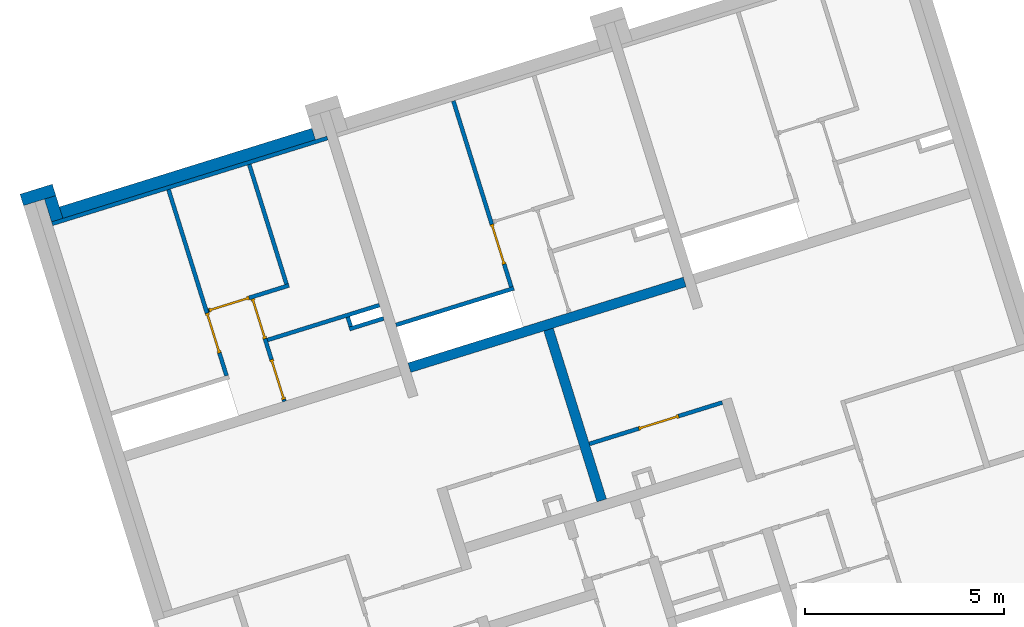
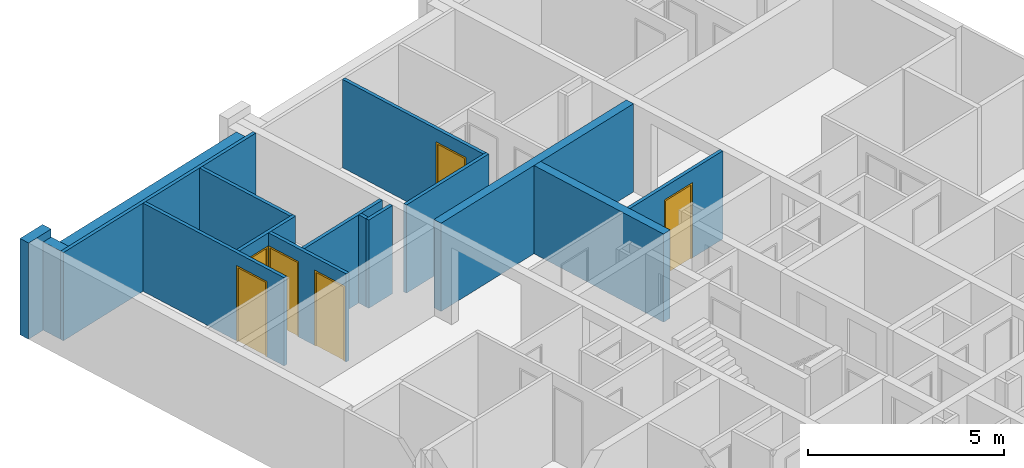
# One storey, part 6 of 12: 16 walls, 6 doors, 10 openings.
"""IFC4 building model written with IfcOpenShell, lengths in metres."""

import ifcopenshell
import ifcopenshell.guid

model = None  # the IFC model being written
_history = None  # IfcOwnerHistory: only IFC2X3 demands one
_inside = {}  # id of a spatial element -> (the spatial element, [elements in it])
_under = {}  # id of a project, library or spatial element -> (it, [spatial elements below it])
_declared = {}  # id of a project -> (the project, [libraries it declares])
_typed = {}  # id of a type object -> (the type object, [elements of that type])
_made_of = {}  # id of a material, layer set ... -> (it, [elements and type objects made of it])


def new_model(schema):
    """Start an empty IFC model of exactly this schema.

    Asked for "IFC4X3", IfcOpenShell would pick the latest addendum, in which some entities
    have other attributes; the version numbers below select the first issue.
    IFC2X3 requires an IfcOwnerHistory on every rooted entity: one is made here for all.
    """
    global model, _history
    if schema == "IFC4X3":
        model = ifcopenshell.file(schema_version=(4, 3, 0, 0))
    else:
        model = ifcopenshell.file(schema=schema)
    _inside.clear()
    _under.clear()
    _declared.clear()
    _typed.clear()
    _made_of.clear()
    _history = None
    if model.schema == "IFC2X3":
        org = make("IfcOrganization", Name="unknown")
        user = make(
            "IfcPersonAndOrganization",
            ThePerson=make("IfcPerson", FamilyName="unknown"),
            TheOrganization=org,
        )
        app = make(
            "IfcApplication",
            ApplicationDeveloper=org,
            Version="unknown",
            ApplicationFullName="unknown",
            ApplicationIdentifier="unknown",
        )
        _history = make(
            "IfcOwnerHistory",
            OwningUser=user,
            OwningApplication=app,
            ChangeAction="ADDED",
            CreationDate=0,
        )
    return model


def make(cls, **values):
    """One entity of the class cls with the attributes given. An attribute that is None is left unset."""
    return model.create_entity(
        cls, **{name: value for name, value in values.items() if value is not None}
    )


def entity(cls, *values):
    """Any entity or typed value of the class cls, its attributes in the order of the schema. None: left unset."""
    e = model.create_entity(cls)
    for i, value in enumerate(values):
        if value is not None:
            e[i] = value
    return e


def rooted(cls, **values):
    """An entity with a GlobalId (a new one), such as an element, a storey or a relation."""
    return make(cls, GlobalId=ifcopenshell.guid.new(), OwnerHistory=_history, **values)


def si_unit(unit_type, name, prefix=None):
    """IfcSIUnit, for example si_unit("LENGTHUNIT", "METRE", prefix="MILLI")."""
    return make("IfcSIUnit", UnitType=unit_type, Prefix=prefix, Name=name)


def converted_unit(unit_type, name, factor, base, dimensions=None, offset=None):
    """IfcConversionBasedUnit, such as the inch: factor (a typed value) times the base unit."""
    return make(
        "IfcConversionBasedUnit"
        if offset is None
        else "IfcConversionBasedUnitWithOffset",
        ConversionOffset=offset,
        Dimensions=None
        if dimensions is None
        else entity("IfcDimensionalExponents", *dimensions),
        UnitType=unit_type,
        Name=name,
        ConversionFactor=make(
            "IfcMeasureWithUnit", ValueComponent=factor, UnitComponent=base
        ),
    )


def assignment(units):
    """IfcUnitAssignment: the units of a project."""
    return None if units is None else make("IfcUnitAssignment", Units=units)


def point(xyz):
    """IfcCartesianPoint."""
    return None if xyz is None else make("IfcCartesianPoint", Coordinates=xyz)


def direction(xyz):
    """IfcDirection."""
    return None if xyz is None else make("IfcDirection", DirectionRatios=xyz)


def frame(location, z_axis=None, x_axis=None):
    """IfcAxis2Placement3D, a coordinate frame: its origin and axes. An axis left out is left unset."""
    return make(
        "IfcAxis2Placement3D",
        Location=point(location),
        Axis=direction(z_axis),
        RefDirection=direction(x_axis),
    )


def origin():
    """The frame at (0, 0, 0) with its axes left unset."""
    return frame((0.0, 0.0, 0.0))


def place(relative_to, where):
    """IfcLocalPlacement: puts the frame where relative to a parent placement (None: the world)."""
    return make(
        "IfcLocalPlacement", PlacementRelTo=relative_to, RelativePlacement=where
    )


def context(
    kind, dimensions, precision=None, world=None, true_north=None, identifier=None
):
    """IfcGeometricRepresentationContext, for example the 3D "Model" context."""
    return make(
        "IfcGeometricRepresentationContext",
        ContextIdentifier=identifier,
        ContextType=kind,
        CoordinateSpaceDimension=dimensions,
        Precision=precision,
        WorldCoordinateSystem=world,
        TrueNorth=true_north,
    )


def subcontext(parent, identifier, kind, view, scale=None):
    """IfcGeometricRepresentationSubContext, for example "Body" below "Model"."""
    return make(
        "IfcGeometricRepresentationSubContext",
        ContextIdentifier=identifier,
        ContextType=kind,
        ParentContext=parent,
        TargetScale=scale,
        TargetView=view,
    )


def project(units=None, contexts=None):
    """IfcProject with its units and contexts."""
    return rooted(
        "IfcProject",
        Name="project",
        RepresentationContexts=contexts,
        UnitsInContext=assignment(units),
    )


def spatial(cls, under=None, at=None, **own):
    """A site, building, storey or space (cls), placed at a placement, below another one or the project."""
    s = rooted(cls, ObjectPlacement=at, **own)
    if under is not None:
        _under.setdefault(under.id(), (under, []))[1].append(s)
    return s


def point_list(points):
    """IfcCartesianPointList2D or 3D."""
    cls = (
        "IfcCartesianPointList2D" if len(points[0]) == 2 else "IfcCartesianPointList3D"
    )
    return make(cls, CoordList=points)


def indexed_curve(points, segments=None, self_intersect=None):
    """IfcIndexedPolyCurve: lines and arcs through numbered points (the first is 1)."""
    return make(
        "IfcIndexedPolyCurve",
        Points=point_list(points),
        Segments=segments,
        SelfIntersect=self_intersect,
    )


def outline(outer, holes=None, kind="AREA"):
    """IfcArbitraryClosedProfileDef: a profile drawn as a closed curve; with holes, ...WithVoids."""
    if holes is None:
        return make("IfcArbitraryClosedProfileDef", ProfileType=kind, OuterCurve=outer)
    return make(
        "IfcArbitraryProfileDefWithVoids",
        ProfileType=kind,
        OuterCurve=outer,
        InnerCurves=holes,
    )


def extrude(swept, where, along, depth):
    """IfcExtrudedAreaSolid: the profile swept, set in the frame where, extruded along a direction by depth."""
    return make(
        "IfcExtrudedAreaSolid",
        SweptArea=swept,
        Position=where,
        ExtrudedDirection=direction(along),
        Depth=depth,
    )


def polygons(points, faces, closed=None, point_numbers=None):
    """IfcPolygonalFaceSet: a face is its outer loop, then its inner loops; points numbered from 1."""
    made = []
    for loops in faces:
        if len(loops) == 1:
            made.append(make("IfcIndexedPolygonalFace", CoordIndex=loops[0]))
        else:
            made.append(
                make(
                    "IfcIndexedPolygonalFaceWithVoids",
                    CoordIndex=loops[0],
                    InnerCoordIndices=loops[1:],
                )
            )
    return make(
        "IfcPolygonalFaceSet",
        Coordinates=point_list(points),
        Closed=closed,
        Faces=made,
        PnIndex=point_numbers,
    )


def shape(context_of_items, identifier, shape_type, items):
    """IfcShapeRepresentation: the items that make up one representation, for example the "Body"."""
    return make(
        "IfcShapeRepresentation",
        ContextOfItems=context_of_items,
        RepresentationIdentifier=identifier,
        RepresentationType=shape_type,
        Items=items,
    )


def source(mapping_origin, context_of_items, identifier, shape_type, items):
    """IfcRepresentationMap: a shape defined once, which mapped items show again and again."""
    return make(
        "IfcRepresentationMap",
        MappingOrigin=mapping_origin,
        MappedRepresentation=shape(context_of_items, identifier, shape_type, items),
    )


def transform(
    local_origin,
    x_axis=None,
    y_axis=None,
    z_axis=None,
    scale=None,
    scale2=None,
    scale3=None,
    uniform=True,
):
    """IfcCartesianTransformationOperator3D, or its non-uniform kind. x_axis, y_axis, z_axis: its Axis1, 2, 3."""
    if uniform:
        return make(
            "IfcCartesianTransformationOperator3D",
            Axis1=direction(x_axis),
            Axis2=direction(y_axis),
            LocalOrigin=point(local_origin),
            Scale=scale,
            Axis3=direction(z_axis),
        )
    return make(
        "IfcCartesianTransformationOperator3DnonUniform",
        Axis1=direction(x_axis),
        Axis2=direction(y_axis),
        LocalOrigin=point(local_origin),
        Scale=scale,
        Axis3=direction(z_axis),
        Scale2=scale2,
        Scale3=scale3,
    )


def mapped(mapping_source, mapping_target):
    """IfcMappedItem: shows the shape of a source again, moved by a transform."""
    return make(
        "IfcMappedItem", MappingSource=mapping_source, MappingTarget=mapping_target
    )


def material(Name=None, Category=None):
    """IfcMaterial."""
    return make("IfcMaterial", Name=Name, Category=Category)


def constituent(of_material, Name=None, Category=None, fraction=None):
    """IfcMaterialConstituent: one of the materials an element consists of."""
    return make(
        "IfcMaterialConstituent",
        Name=Name,
        Material=of_material,
        Fraction=fraction,
        Category=Category,
    )


def constituent_set(constituents=None, Name=None):
    """IfcMaterialConstituentSet."""
    return make(
        "IfcMaterialConstituentSet", Name=Name, MaterialConstituents=constituents
    )


def made_of(thing, what):
    """Note that an element or type object is made of a material, layer set ...; save() writes the relation."""
    if what is not None:
        _made_of.setdefault(what.id(), (what, []))[1].append(thing)
    return thing


def type_object(cls, material=None, **own):
    """A type object (cls), such as IfcWallType, which elements share."""
    return made_of(rooted(cls, **own), material)


def type_shapes(of_type, sources):
    """Give a type object the sources (RepresentationMaps) that its elements show as mapped items."""
    of_type.RepresentationMaps = sources


def element(
    cls,
    number,
    at=None,
    inside=None,
    cuts=None,
    type_object=None,
    material=None,
    context=None,
    identifier="Body",
    shape_type=None,
    held_by="IfcProductDefinitionShape",
    body=None,
    shapes=None,
    **own,
):
    """One element of the class cls, such as IfcWall. Its Tag is "e" and its number.

    at: its placement. inside: the storey or other place that contains it. cuts: it is an
    opening in that element (IfcRelVoidsElement). A single representation is given by context,
    identifier, shape_type and body (its items); several are given by shapes. held_by: the class
    of the entity that holds the representations. save() writes the other relations.
    """
    e = rooted(cls, Tag="e%d" % number, ObjectPlacement=at, **own)
    if body is not None:
        shapes = [shape(context, identifier, shape_type, body)]
    if shapes is not None:
        e.Representation = make(held_by, Representations=shapes)
    if inside is not None:
        _inside.setdefault(inside.id(), (inside, []))[1].append(e)
    if cuts is not None:
        rooted(
            "IfcRelVoidsElement", RelatingBuildingElement=cuts, RelatedOpeningElement=e
        )
    if type_object is not None:
        _typed.setdefault(type_object.id(), (type_object, []))[1].append(e)
    return made_of(e, material)


def fill(opening, filler):
    """IfcRelFillsElement: the door or window that sits in an opening."""
    return rooted(
        "IfcRelFillsElement",
        RelatingOpeningElement=opening,
        RelatedBuildingElement=filler,
    )


def aggregate(whole, parts):
    """IfcRelAggregates: a whole, such as a stair, and the parts it consists of."""
    return rooted("IfcRelAggregates", RelatingObject=whole, RelatedObjects=parts)


def save(model, path):
    """Write the relations noted so far, then the file.

    IfcRelAggregates (storeys below a building ...), IfcRelContainedInSpatialStructure (elements
    in a storey), IfcRelDefinesByType, IfcRelAssociatesMaterial and IfcRelDeclares: one each for
    every whole, place, type object, material and project.
    """
    for whole, parts in _under.values():
        aggregate(whole, parts)
    for where, things in _inside.values():
        rooted(
            "IfcRelContainedInSpatialStructure",
            RelatedElements=things,
            RelatingStructure=where,
        )
    for kind, things in _typed.values():
        rooted("IfcRelDefinesByType", RelatedObjects=things, RelatingType=kind)
    for what, things in _made_of.values():
        rooted("IfcRelAssociatesMaterial", RelatedObjects=things, RelatingMaterial=what)
    for by, libraries in _declared.values():
        rooted("IfcRelDeclares", RelatingContext=by, RelatedDefinitions=libraries)
    model.write(path)


model = new_model("IFC4")

# Units and contexts
model_context = context("Model", 3, precision=1e-05, world=origin(), true_north=direction((6.12323399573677e-17, 1.0)))
body_context = subcontext(model_context, "Body", "Model", "MODEL_VIEW")
ifc_project = project(units=[si_unit("LENGTHUNIT", "METRE"), si_unit("AREAUNIT", "SQUARE_METRE"), converted_unit("PLANEANGLEUNIT", "DEGREE", entity("IfcPlaneAngleMeasure", 0.0174532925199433), si_unit("PLANEANGLEUNIT", "RADIAN"), dimensions=[0, 0, 0, 0, 0, 0, 0]), si_unit("VOLUMEUNIT", "CUBIC_METRE")], contexts=[model_context])

# Site, building, storey
site_placement = place(None, frame((13.1347999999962, 11.9886000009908, 0.0), z_axis=(0.0, 0.0, 1.0), x_axis=(0.954770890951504, 0.297342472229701, 0.0)))
site = spatial("IfcSite", under=ifc_project, at=site_placement, Name="Schiehaven", CompositionType="ELEMENT")
building_placement = place(site_placement, origin())
building = spatial("IfcBuilding", under=site, at=building_placement, Name="VORM huis", CompositionType="ELEMENT")
storey_placement = place(building_placement, frame((0.0, 0.0, 3.9)))
storey = spatial("IfcBuildingStorey", under=building, at=storey_placement, Name="01 eerste verdieping", CompositionType="ELEMENT", Elevation=3.9)

# Walls
ifc_material_1 = material(Name="ntb_ntb_ntb", Category="Miscellaneous")
wall_type_1 = type_object("IfcWallType", Name="Basic Wall:21_WA_gevel_binnenspouwwand 100mm_gen", PredefinedType="STANDARD")
wall_1_placement = place(storey_placement, frame((57.6250000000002, 33.0749999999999, 0.0)))
element("IfcWall", 1, at=wall_1_placement, inside=storey, type_object=wall_type_1, material=ifc_material_1, Name="Binnenspouwblad", ObjectType="Wand", PredefinedType="NOTDEFINED", context=body_context, shape_type="SweptSolid", body=[
    extrude(outline(indexed_curve([(7.24999999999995, 0.0499999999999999), (-1.37255262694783e-16, 0.0500000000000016), (1.37255262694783e-16, -0.0500000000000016), (7.24999999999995, -0.0500000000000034), (7.24999999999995, 0.0499999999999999)], self_intersect=False)), origin(), (0.0, 0.0, 1.0), 2.75),
])
wall_type_2 = type_object("IfcWallType", Name="Basic Wall: 300mm_gen", PredefinedType="STANDARD")
wall_2_placement = place(storey_placement, frame((57.9250000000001, 33.8749999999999, 0.0), z_axis=(0.0, 0.0, 1.0), x_axis=(-1.0, 0.0, 0.0)))
element("IfcWall", 2, at=wall_2_placement, inside=storey, type_object=wall_type_2, material=ifc_material_1, Name="Gevelwand", ObjectType="Wand", PredefinedType="NOTDEFINED", context=body_context, shape_type="SweptSolid", body=[
    extrude(outline(indexed_curve([(0.849999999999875, 0.150000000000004), (-6.58211410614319e-16, 0.150000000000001), (6.58211410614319e-16, -0.150000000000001), (0.849999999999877, -0.149999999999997), (0.849999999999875, 0.150000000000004)], self_intersect=False)), origin(), (0.0, 0.0, 1.0), 3.0),
])
wall_3_placement = place(storey_placement, frame((57.7750000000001, 33.1249999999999, 0.0), z_axis=(0.0, 0.0, 1.0), x_axis=(0.0, 1.0, 0.0)))
element("IfcWall", 3, at=wall_3_placement, inside=storey, type_object=wall_type_2, material=ifc_material_1, Name="Gevelwand", ObjectType="Wand", PredefinedType="NOTDEFINED", context=body_context, shape_type="SweptSolid", body=[
    extrude(outline(indexed_curve([(0.600000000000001, 0.150000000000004), (-9.66298299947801e-16, 0.150000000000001), (9.66298299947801e-16, -0.150000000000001), (0.600000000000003, -0.149999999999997), (0.600000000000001, 0.150000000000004)], self_intersect=False)), origin(), (0.0, 0.0, 1.0), 2.75),
])
wall_4_placement = place(storey_placement, frame((64.5750000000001, 33.2749999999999, 0.0), z_axis=(0.0, 0.0, 1.0), x_axis=(-1.0, 0.0, 0.0)))
element("IfcWall", 4, at=wall_4_placement, inside=storey, type_object=wall_type_2, material=ifc_material_1, Name="Gevelwand", ObjectType="Wand", PredefinedType="NOTDEFINED", context=body_context, shape_type="SweptSolid", body=[
    extrude(outline(indexed_curve([(6.64999999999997, 0.150000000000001), (-4.90186530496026e-16, 0.150000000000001), (4.90186530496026e-16, -0.150000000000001), (6.64999999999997, -0.15), (6.64999999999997, 0.150000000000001)], self_intersect=False)), origin(), (0.0, 0.0, 1.0), 2.75),
])
wall_type_3 = type_object("IfcWallType", Name="Basic Wall:22_WA_afbouw_binnenwand 250mm_gen", PredefinedType="STANDARD")
wall_5_placement = place(storey_placement, frame((68.7500000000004, 22.325, 0.0), z_axis=(0.0, 0.0, 1.0), x_axis=(0.0, 1.0, 0.0)))
element("IfcWall", 5, at=wall_5_placement, inside=storey, type_object=wall_type_3, material=ifc_material_1, Name="Binnenwand", ObjectType="Wand", PredefinedType="NOTDEFINED", context=body_context, shape_type="SweptSolid", body=[
    extrude(outline(indexed_curve([(4.49999999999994, 0.124999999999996), (7.62151676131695e-16, 0.124999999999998), (-7.62151676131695e-16, -0.124999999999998), (4.49999999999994, -0.124999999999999), (4.49999999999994, 0.124999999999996)], self_intersect=False)), origin(), (0.0, 0.0, 1.0), 2.75),
])
wall_6_placement = place(storey_placement, frame((72.3750000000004, 26.95, 0.0), z_axis=(0.0, 0.0, 1.0), x_axis=(-1.0, 0.0, 0.0)))
element("IfcWall", 6, at=wall_6_placement, inside=storey, type_object=wall_type_3, material=ifc_material_1, Name="Binnenwand", ObjectType="Wand", PredefinedType="NOTDEFINED", context=body_context, shape_type="SweptSolid", body=[
    extrude(outline(indexed_curve([(7.24999999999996, 0.125000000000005), (6.85879083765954e-16, 0.125000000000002), (-6.85879083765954e-16, -0.125000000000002), (7.24999999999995, -0.124999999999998), (7.24999999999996, 0.125000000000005)], self_intersect=False)), origin(), (0.0, 0.0, 1.0), 2.75),
])
wall_type_4 = type_object("IfcWallType", Name="Basic Wall:22_WA_afbouw_binnenwand 100mm_gen", PredefinedType="STANDARD")
wall_7_placement = place(storey_placement, frame((68.2250000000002, 28.0749999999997, 0.0), z_axis=(0.0, 0.0, 1.0), x_axis=(-1.0, 0.0, 0.0)))
element("IfcWall", 7, at=wall_7_placement, inside=storey, type_object=wall_type_4, material=ifc_material_1, Name="Binnenwand", ObjectType="Wand", PredefinedType="NOTDEFINED", context=body_context, shape_type="SweptSolid", body=[
    extrude(outline(indexed_curve([(3.10000000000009, 0.0500000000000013), (-4.84095551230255e-16, 0.0500000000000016), (4.84095551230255e-16, -0.0500000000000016), (3.10000000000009, -0.0500000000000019), (3.10000000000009, 0.0500000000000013)], self_intersect=False)), origin(), (0.0, 0.0, 1.0), 2.75),
])

# Wall, openings, door
wall_8_placement = place(storey_placement, frame((68.1750000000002, 33.0249999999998, 0.0), z_axis=(0.0, 0.0, 1.0), x_axis=(0.0, -1.0, 0.0)))
wall_8 = element("IfcWall", 8, at=wall_8_placement, inside=storey, type_object=wall_type_4, material=ifc_material_1, Name="Binnenwand", ObjectType="Wand", PredefinedType="NOTDEFINED", context=body_context, shape_type="Tessellation", body=[
    polygons([(4.90000000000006, -0.0499999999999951, 2.75), (0.0, -0.0500000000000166, 2.75), (0.0, -0.0500000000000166, 0.0), (3.25000000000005, -0.0500000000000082, 0.0), (3.25000000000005, -0.0500000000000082, 2.34999999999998), (4.30000000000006, -0.0499999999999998, 2.34999999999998), (4.30000000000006, -0.0499999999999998, 0.0), (4.90000000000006, -0.0499999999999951, 0.0), (0.0, 0.0499999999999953, 2.75), (3.15000000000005, 0.0499999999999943, 2.75), (3.25000000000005, 0.0499999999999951, 2.75), (4.90000000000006, 0.0499999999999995, 2.75), (4.90000000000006, 0.0499999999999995, 0.0), (4.30000000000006, 0.0499999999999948, 0.0), (4.30000000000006, 0.0499999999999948, 2.34999999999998), (3.25000000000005, 0.0499999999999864, 2.34999999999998), (3.25000000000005, 0.0499999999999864, 0.0), (3.15000000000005, 0.0499999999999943, 5.41433564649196e-16), (0.0, 0.0499999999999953, 0.0)], [[[1, 2, 3, 4, 5, 6, 7, 8]], [[9, 10, 11, 12, 13, 14, 15, 16, 17, 18, 19]], [[3, 19, 18, 17, 4]], [[2, 1, 12, 11, 10, 9]], [[3, 2, 9, 19]], [[1, 8, 13, 12]], [[6, 15, 14, 7]], [[16, 5, 4, 17]], [[15, 6, 5, 16]], [[13, 8, 7, 14]]], closed=True),
])
opening_1_placement = place(wall_8_placement, frame((3.25000000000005, -0.0500000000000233, 0.0)))
opening_1 = element("IfcOpeningElement", 9, at=opening_1_placement, cuts=wall_8, Name="Binnendeur", PredefinedType="OPENING", context=body_context, shape_type="SweptSolid", body=[
    extrude(outline(indexed_curve([(2.34999999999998, 1.05), (0.0, 1.05), (0.0, 0.0), (2.34999999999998, 0.0), (2.34999999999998, 1.05)], self_intersect=False)), frame((0.0, 0.0, 0.0), z_axis=(0.0, 1.0, 0.0), x_axis=(0.0, 0.0, 1.0)), (0.0, 0.0, 1.0), 0.1),
])
opening_2_placement = place(wall_8_placement, frame((33.0249999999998, -68.1750000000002, 0.0), z_axis=(0.0, 0.0, 1.0), x_axis=(0.0, 1.0, 0.0)))
element("IfcOpeningElement", 10, at=opening_2_placement, cuts=wall_8, Name="Binnendeur", PredefinedType="OPENING", context=body_context, shape_type="SweptSolid", body=[
    extrude(outline(indexed_curve([(-1.17499999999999, -0.524999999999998), (1.17499999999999, -0.525000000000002), (1.17499999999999, 0.525000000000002), (-1.17499999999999, 0.525000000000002), (-1.17499999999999, -0.524999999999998)], self_intersect=False)), frame((66.6010000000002, 29.2499999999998, 1.17499999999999), z_axis=(1.0, 0.0, 0.0), x_axis=(0.0, 0.0, -1.0)), (0.0, 0.0, 1.0), 3.048),
])
ifc_material_2 = material(Name="PD_a_binnenwandopeningen", Category="Miscellaneous")
ifc_constituent_1 = constituent(ifc_material_2, Name="PD_a_binnenwandopeningen", Category="Miscellaneous")
ifc_material_3 = material(Name="metaal_aluminium_ntb", Category="Miscellaneous")
ifc_constituent_2 = constituent(ifc_material_3, Name="metaal_aluminium_ntb", Category="Miscellaneous")
ifc_constituent_set_1 = constituent_set(constituents=[ifc_constituent_1, ifc_constituent_2])
ifc_constituent_3 = constituent(ifc_material_2, Name="PD_a_binnenwandopeningen", Category="Miscellaneous")
ifc_constituent_4 = constituent(ifc_material_3, Name="Panel", Category="Miscellaneous")
ifc_constituent_set_2 = constituent_set(constituents=[ifc_constituent_3, ifc_constituent_4])
door_type = type_object("IfcDoorType", Name="32_DO_binnendeur enkel:binnendeur", OperationType="REVOLVING", PredefinedType="DOOR", material=ifc_constituent_set_2)
shared_shape = source(origin(), body_context, "Body", "SweptSolid", [
    extrude(outline(indexed_curve([(-1.16249999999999, -0.525000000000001), (1.18749999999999, -0.525), (1.18749999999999, 0.525), (-1.16249999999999, 0.525), (-1.16249999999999, 0.475), (1.13749999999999, 0.475), (1.13749999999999, -0.475), (-1.16249999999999, -0.475), (-1.16249999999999, -0.525000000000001)], self_intersect=False)), frame((0.525000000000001, 0.0, 1.16249999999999), z_axis=(0.0, 1.0, 0.0), x_axis=(0.0, 0.0, 1.0)), (0.0, 0.0, 1.0), 0.1),
    extrude(outline(indexed_curve([(-0.025, -0.475), (0.025, -0.475), (0.025, 0.475), (-0.025, 0.475), (-0.025, -0.475)], self_intersect=False)), frame((0.525000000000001, 0.0499999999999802, 0.0), z_axis=(0.0, 0.0, 1.0), x_axis=(0.0, 1.0, 0.0)), (0.0, 0.0, 1.0), 2.29999999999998),
])
type_shapes(door_type, [shared_shape])
door_1_placement = place(opening_1_placement, origin())
door_1 = element("IfcDoor", 11, at=door_1_placement, inside=storey, type_object=door_type, material=ifc_constituent_set_1, Name="Binnendeur", ObjectType="Deur", OperationType="REVOLVING", OverallHeight=2.34999999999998, OverallWidth=1.05, PredefinedType="DOOR", context=body_context, shape_type="MappedRepresentation", body=[
    mapped(shared_shape, transform((0.0, 0.0, 0.0), scale=1.0)),
])
fill(opening_1, door_1)

wall_9_placement = place(storey_placement, frame((60.7250000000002, 29.8249999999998, 0.0)))
wall_9 = element("IfcWall", 12, at=wall_9_placement, inside=storey, type_object=wall_type_4, material=ifc_material_1, Name="Binnenwand", ObjectType="Wand", PredefinedType="NOTDEFINED", context=body_context, shape_type="Tessellation", body=[
    polygons([(2.12499999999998, -0.0499999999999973, 2.75), (1.19999999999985, -0.0499999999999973, 2.75), (1.09999999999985, -0.0500000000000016, 2.75), (2.23075167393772e-15, -0.0499999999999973, 2.75), (2.23075167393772e-15, -0.0499999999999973, 2.34999999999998), (2.23075167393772e-15, -0.0499999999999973, 0.0), (0.0250000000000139, -0.0499999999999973, 0.0), (0.0250000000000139, -0.0499999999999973, 2.34999999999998), (1.07500000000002, -0.0500000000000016, 2.34999999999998), (1.07500000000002, -0.0500000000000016, 0.0), (2.12499999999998, -0.0499999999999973, 0.0), (1.56906636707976e-15, 0.0500000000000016, 2.75), (2.02499999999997, 0.0500000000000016, 2.75), (2.12499999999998, 0.0499999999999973, 2.75), (2.12499999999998, 0.0499999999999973, 0.0), (2.02499999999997, 0.0500000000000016, 5.41433564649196e-16), (1.07500000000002, 0.049999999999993, 0.0), (1.07500000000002, 0.049999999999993, 2.34999999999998), (0.0250000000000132, 0.0500000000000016, 2.34999999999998), (0.0250000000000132, 0.0500000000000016, 0.0), (1.56906636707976e-15, 0.0500000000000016, 0.0)], [[[1, 2, 3, 4, 5, 6, 7, 8, 9, 10, 11]], [[12, 13, 14, 15, 16, 17, 18, 19, 20, 21]], [[6, 21, 20, 7]], [[4, 3, 2, 1, 14, 13, 12]], [[6, 5, 4, 12, 21]], [[19, 8, 7, 20]], [[9, 18, 17, 10]], [[8, 19, 18, 9]], [[1, 11, 15, 14]], [[15, 11, 10, 17, 16]]], closed=True),
])
opening_3_placement = place(wall_9_placement, origin())
element("IfcOpeningElement", 13, at=opening_3_placement, cuts=wall_9, Name="Binnendeur", PredefinedType="OPENING", context=body_context, shape_type="SweptSolid", body=[
    extrude(outline(indexed_curve([(-0.0499999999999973, -1.17499999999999), (0.050000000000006, -1.17499999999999), (0.050000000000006, 1.17499999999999), (-0.0499999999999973, 1.17499999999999), (-0.0499999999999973, -1.17499999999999)], self_intersect=False)), frame((1.14999999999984, -1.10000000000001, 1.17499999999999), z_axis=(0.0, 1.0, 0.0), x_axis=(1.0, 0.0, 0.0)), (0.0, 0.0, 1.0), 1.05),
])
opening_4_placement = place(wall_9_placement, frame((1.07500000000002, 0.049999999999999, 0.0)))
opening_4 = element("IfcOpeningElement", 14, at=opening_4_placement, cuts=wall_9, Name="Binnendeur", PredefinedType="OPENING", context=body_context, shape_type="SweptSolid", body=[
    extrude(outline(indexed_curve([(2.34999999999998, 1.05), (0.0, 1.05), (0.0, -1.13635160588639e-29), (2.34999999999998, -1.13635160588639e-29), (2.34999999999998, 1.05)], self_intersect=False)), frame((0.0, 0.0, 0.0), z_axis=(0.0, -1.0, 0.0), x_axis=(0.0, 0.0, 1.0)), (0.0, 0.0, 1.0), 0.1),
])
ifc_constituent_5 = constituent(ifc_material_2, Name="PD_a_binnenwandopeningen", Category="Miscellaneous")
ifc_constituent_6 = constituent(ifc_material_3, Name="metaal_aluminium_ntb", Category="Miscellaneous")
ifc_constituent_set_3 = constituent_set(constituents=[ifc_constituent_5, ifc_constituent_6])
door_2_placement = place(opening_4_placement, frame((0.0, 0.0, 0.0), z_axis=(0.0, 0.0, 1.0), x_axis=(-1.0, 0.0, 0.0)))
door_2 = element("IfcDoor", 15, at=door_2_placement, inside=storey, type_object=door_type, material=ifc_constituent_set_3, Name="Binnendeur", ObjectType="Deur", OperationType="REVOLVING", OverallHeight=2.34999999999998, OverallWidth=1.05, PredefinedType="DOOR", context=body_context, shape_type="MappedRepresentation", body=[
    mapped(shared_shape, transform((0.0, 0.0, 0.0), scale=1.0)),
])
fill(opening_4, door_2)

wall_10_placement = place(storey_placement, frame((60.6750000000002, 33.0249999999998, 0.0), z_axis=(0.0, 0.0, 1.0), x_axis=(0.0, -1.0, 0.0)))
wall_10 = element("IfcWall", 16, at=wall_10_placement, inside=storey, type_object=wall_type_4, material=ifc_material_1, Name="Binnenwand", ObjectType="Wand", PredefinedType="NOTDEFINED", context=body_context, shape_type="Tessellation", body=[
    polygons([(4.90000000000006, -0.0500000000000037, 2.75), (0.0, -0.0500000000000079, 2.75), (0.0, -0.0500000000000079, 0.0), (3.25000000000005, -0.0499999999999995, 0.0), (3.25000000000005, -0.0499999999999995, 2.34999999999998), (4.30000000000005, -0.0500000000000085, 2.34999999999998), (4.30000000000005, -0.0500000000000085, 0.0), (4.90000000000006, -0.0500000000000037, 0.0), (0.0, 0.0499999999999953, 2.75), (3.15000000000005, 0.0499999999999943, 2.75), (3.25000000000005, 0.0499999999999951, 2.75), (4.90000000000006, 0.0499999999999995, 2.75), (4.90000000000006, 0.0499999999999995, 0.0), (4.30000000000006, 0.0499999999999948, 0.0), (4.30000000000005, 0.0499999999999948, 2.34999999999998), (3.25000000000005, 0.0499999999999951, 2.34999999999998), (3.25000000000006, 0.0499999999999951, 0.0), (3.15000000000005, 0.0499999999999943, 5.41433564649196e-16), (0.0, 0.0499999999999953, 0.0)], [[[1, 2, 3, 4, 5, 6, 7, 8]], [[9, 10, 11, 12, 13, 14, 15, 16, 17, 18, 19]], [[3, 19, 18, 17, 4]], [[2, 1, 12, 11, 10, 9]], [[3, 2, 9, 19]], [[1, 8, 13, 12]], [[6, 15, 14, 7]], [[16, 5, 4, 17]], [[15, 6, 5, 16]], [[13, 8, 7, 14]]], closed=True),
])
opening_5_placement = place(wall_10_placement, frame((3.25000000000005, -0.0500000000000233, 0.0)))
opening_5 = element("IfcOpeningElement", 17, at=opening_5_placement, cuts=wall_10, Name="Binnendeur", PredefinedType="OPENING", context=body_context, shape_type="SweptSolid", body=[
    extrude(outline(indexed_curve([(2.34999999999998, 1.05), (0.0, 1.05), (0.0, 0.0), (2.34999999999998, 0.0), (2.34999999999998, 1.05)], self_intersect=False)), frame((0.0, 0.0, 0.0), z_axis=(0.0, 1.0, 0.0), x_axis=(0.0, 0.0, 1.0)), (0.0, 0.0, 1.0), 0.1),
])
opening_6_placement = place(wall_10_placement, frame((33.0249999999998, -60.6750000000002, 0.0), z_axis=(0.0, 0.0, 1.0), x_axis=(0.0, 1.0, 0.0)))
element("IfcOpeningElement", 18, at=opening_6_placement, cuts=wall_10, Name="Binnendeur", PredefinedType="OPENING", context=body_context, shape_type="SweptSolid", body=[
    extrude(outline(indexed_curve([(-1.17499999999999, -0.524999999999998), (1.17499999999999, -0.525000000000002), (1.17499999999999, 0.525000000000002), (-1.17499999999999, 0.525000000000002), (-1.17499999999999, -0.524999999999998)], self_intersect=False)), frame((59.1010000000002, 29.2499999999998, 1.17499999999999), z_axis=(1.0, 0.0, 0.0), x_axis=(0.0, 0.0, -1.0)), (0.0, 0.0, 1.0), 3.048),
])
ifc_constituent_7 = constituent(ifc_material_2, Name="PD_a_binnenwandopeningen", Category="Miscellaneous")
ifc_constituent_8 = constituent(ifc_material_3, Name="metaal_aluminium_ntb", Category="Miscellaneous")
ifc_constituent_set_4 = constituent_set(constituents=[ifc_constituent_7, ifc_constituent_8])
door_3_placement = place(opening_5_placement, origin())
door_3 = element("IfcDoor", 19, at=door_3_placement, inside=storey, type_object=door_type, material=ifc_constituent_set_4, Name="Binnendeur", ObjectType="Deur", OperationType="REVOLVING", OverallHeight=2.34999999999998, OverallWidth=1.05, PredefinedType="DOOR", context=body_context, shape_type="MappedRepresentation", body=[
    mapped(shared_shape, transform((0.0, 0.0, 0.0), scale=1.0)),
])
fill(opening_5, door_3)

# Wall
wall_11_placement = place(storey_placement, frame((62.8000000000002, 33.0249999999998, 0.0), z_axis=(0.0, 0.0, 1.0), x_axis=(0.0, -1.0, 0.0)))
element("IfcWall", 20, at=wall_11_placement, inside=storey, type_object=wall_type_4, material=ifc_material_1, Name="Binnenwand", ObjectType="Wand", PredefinedType="NOTDEFINED", context=body_context, shape_type="SweptSolid", body=[
    extrude(outline(indexed_curve([(3.15000000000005, 0.0499999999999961), (-3.92720775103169e-16, 0.0499999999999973), (3.92720775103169e-16, -0.0499999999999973), (3.15000000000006, -0.0499999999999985), (3.15000000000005, 0.0499999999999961)], self_intersect=False)), origin(), (0.0, 0.0, 1.0), 2.75),
])

# Wall, openings, doors
wall_12_placement = place(storey_placement, frame((61.875, 29.7749999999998, 0.0), z_axis=(0.0, 0.0, 1.0), x_axis=(0.0, -1.0, 0.0)))
wall_12 = element("IfcWall", 21, at=wall_12_placement, inside=storey, type_object=wall_type_4, material=ifc_material_1, Name="Binnenwand", ObjectType="Wand", PredefinedType="NOTDEFINED", context=body_context, shape_type="Tessellation", body=[
    polygons([(2.69999999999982, -0.0500000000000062, 2.75), (0.0, -0.0500000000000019, 2.75), (0.0, -0.0500000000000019, 2.34999999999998), (1.05000000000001, -0.0500000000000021, 2.34999999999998), (1.05000000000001, -0.0500000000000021, 0.0), (1.59999999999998, -0.0499999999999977, 0.0), (1.59999999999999, -0.0499999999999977, 2.34999999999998), (2.64999999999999, -0.0500000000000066, 2.34999999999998), (2.64999999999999, -0.0500000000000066, 0.0), (2.69999999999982, -0.0500000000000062, 0.0), (0.0, 0.0500000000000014, 2.75), (1.05000000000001, 0.0500000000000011, 2.75), (1.15000000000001, 0.0500000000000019, 2.75), (2.69999999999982, 0.0500000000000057, 2.75), (2.69999999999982, 0.0500000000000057, 0.0), (2.64999999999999, 0.0500000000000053, 0.0), (2.64999999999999, 0.0500000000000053, 2.34999999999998), (1.59999999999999, 0.0500000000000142, 2.34999999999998), (1.59999999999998, 0.0500000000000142, 0.0), (1.15000000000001, 0.0500000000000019, 5.41433564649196e-16), (1.05000000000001, 0.0500000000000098, 0.0), (1.05000000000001, 0.0500000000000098, 2.34999999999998), (0.0, 0.0500000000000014, 2.34999999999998)], [[[1, 2, 3, 4, 5, 6, 7, 8, 9, 10]], [[11, 12, 13, 14, 15, 16, 17, 18, 19, 20, 21, 22, 23]], [[9, 16, 15, 10]], [[2, 1, 14, 13, 12, 11]], [[18, 17, 8, 7]], [[17, 16, 9, 8]], [[19, 18, 7, 6]], [[2, 11, 23, 3]], [[4, 22, 21, 5]], [[22, 4, 3, 23]], [[1, 10, 15, 14]], [[19, 6, 5, 21, 20]]], closed=True),
])
opening_7_placement = place(wall_12_placement, frame((2.64999999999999, 0.0499999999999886, 0.0)))
opening_7 = element("IfcOpeningElement", 22, at=opening_7_placement, cuts=wall_12, Name="Binnendeur", PredefinedType="OPENING", context=body_context, shape_type="SweptSolid", body=[
    extrude(outline(indexed_curve([(2.34999999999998, 1.05), (0.0, 1.05), (0.0, 0.0), (2.34999999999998, 0.0), (2.34999999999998, 1.05)], self_intersect=False)), frame((0.0, 0.0, 0.0), z_axis=(0.0, -1.0, 0.0), x_axis=(0.0, 0.0, 1.0)), (0.0, 0.0, 1.0), 0.1),
])
opening_8_placement = place(wall_12_placement, frame((29.7749999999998, -61.875, 0.0), z_axis=(0.0, 0.0, 1.0), x_axis=(0.0, 1.0, 0.0)))
element("IfcOpeningElement", 23, at=opening_8_placement, cuts=wall_12, Name="Binnendeur", PredefinedType="OPENING", context=body_context, shape_type="SweptSolid", body=[
    extrude(outline(indexed_curve([(-0.525000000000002, -1.17499999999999), (0.525000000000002, -1.17499999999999), (0.524999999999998, 1.17499999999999), (-0.525000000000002, 1.17499999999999), (-0.525000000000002, -1.17499999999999)], self_intersect=False)), frame((60.401, 27.6499999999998, 1.17499999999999), z_axis=(1.0, 0.0, 0.0), x_axis=(0.0, -1.0, 0.0)), (0.0, 0.0, 1.0), 3.048),
])
opening_9_placement = place(wall_12_placement, frame((1.05000000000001, 0.050000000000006, 0.0)))
opening_9 = element("IfcOpeningElement", 24, at=opening_9_placement, cuts=wall_12, Name="Binnendeur", PredefinedType="OPENING", context=body_context, shape_type="SweptSolid", body=[
    extrude(outline(indexed_curve([(2.34999999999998, 1.05), (0.0, 1.05), (0.0, 0.0), (2.34999999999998, 0.0), (2.34999999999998, 1.05)], self_intersect=False)), frame((0.0, 0.0, 0.0), z_axis=(0.0, -1.0, 0.0), x_axis=(0.0, 0.0, 1.0)), (0.0, 0.0, 1.0), 0.1),
])
ifc_constituent_9 = constituent(ifc_material_2, Name="PD_a_binnenwandopeningen", Category="Miscellaneous")
ifc_constituent_10 = constituent(ifc_material_3, Name="metaal_aluminium_ntb", Category="Miscellaneous")
ifc_constituent_set_5 = constituent_set(constituents=[ifc_constituent_9, ifc_constituent_10])
door_4_placement = place(opening_7_placement, frame((0.0, 0.0, 0.0), z_axis=(0.0, 0.0, 1.0), x_axis=(-1.0, 0.0, 0.0)))
door_4 = element("IfcDoor", 25, at=door_4_placement, inside=storey, type_object=door_type, material=ifc_constituent_set_5, Name="Binnendeur", ObjectType="Deur", OperationType="REVOLVING", OverallHeight=2.34999999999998, OverallWidth=1.05, PredefinedType="DOOR", context=body_context, shape_type="MappedRepresentation", body=[
    mapped(shared_shape, transform((0.0, 0.0, 0.0), scale=1.0)),
])
fill(opening_7, door_4)
ifc_constituent_11 = constituent(ifc_material_2, Name="PD_a_binnenwandopeningen", Category="Miscellaneous")
ifc_constituent_12 = constituent(ifc_material_3, Name="metaal_aluminium_ntb", Category="Miscellaneous")
ifc_constituent_set_6 = constituent_set(constituents=[ifc_constituent_11, ifc_constituent_12])
door_5_placement = place(opening_9_placement, frame((0.0, 0.0, 0.0), z_axis=(0.0, 0.0, 1.0), x_axis=(-1.0, 0.0, 0.0)))
door_5 = element("IfcDoor", 26, at=door_5_placement, inside=storey, type_object=door_type, material=ifc_constituent_set_6, Name="Binnendeur", ObjectType="Deur", OperationType="REVOLVING", OverallHeight=2.34999999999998, OverallWidth=1.05, PredefinedType="DOOR", context=body_context, shape_type="MappedRepresentation", body=[
    mapped(shared_shape, transform((0.0, 0.0, 0.0), scale=1.0)),
])
fill(opening_9, door_5)

# Walls
wall_13_placement = place(storey_placement, frame((61.925, 28.6749999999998, 0.0)))
element("IfcWall", 27, at=wall_13_placement, inside=storey, type_object=wall_type_4, material=ifc_material_1, Name="Binnenwand", ObjectType="Wand", PredefinedType="NOTDEFINED", context=body_context, shape_type="SweptSolid", body=[
    extrude(outline(indexed_curve([(2.95000000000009, 0.0499999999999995), (-3.30842653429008e-16, 0.0500000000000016), (3.30842653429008e-16, -0.0500000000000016), (2.95000000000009, -0.0500000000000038), (2.95000000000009, 0.0499999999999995)], self_intersect=False)), origin(), (0.0, 0.0, 1.0), 2.75),
])
wall_14_placement = place(storey_placement, frame((64.8750000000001, 28.3249999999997, 0.0), z_axis=(0.0, 0.0, 1.0), x_axis=(-1.0, 0.0, 0.0)))
element("IfcWall", 28, at=wall_14_placement, inside=storey, type_object=wall_type_4, material=ifc_material_1, Name="Binnenwand", ObjectType="Wand", PredefinedType="NOTDEFINED", context=body_context, shape_type="SweptSolid", body=[
    extrude(outline(indexed_curve([(0.899999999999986, 0.0500000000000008), (-4.33538283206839e-16, 0.0500000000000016), (4.33538283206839e-16, -0.0500000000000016), (0.899999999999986, -0.0500000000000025), (0.899999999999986, 0.0500000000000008)], self_intersect=False)), origin(), (0.0, 0.0, 1.0), 2.75),
])
wall_15_placement = place(storey_placement, frame((64.0250000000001, 28.3749999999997, 0.0), z_axis=(0.0, 0.0, 1.0), x_axis=(0.0, 1.0, 0.0)))
element("IfcWall", 29, at=wall_15_placement, inside=storey, type_object=wall_type_4, material=ifc_material_1, Name="Binnenwand", ObjectType="Wand", PredefinedType="NOTDEFINED", context=body_context, shape_type="SweptSolid", body=[
    extrude(outline(indexed_curve([(0.250000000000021, 0.049999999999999), (-3.3084265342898e-16, 0.0499999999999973), (3.3084265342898e-16, -0.0499999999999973), (0.250000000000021, -0.0499999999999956), (0.250000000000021, 0.049999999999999)], self_intersect=False)), origin(), (0.0, 0.0, 1.0), 2.75),
])

# Wall, opening, door
wall_16_placement = place(storey_placement, frame((68.875, 23.7749999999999, 0.0)))
wall_16 = element("IfcWall", 30, at=wall_16_placement, inside=storey, type_object=wall_type_4, material=ifc_material_1, Name="Binnenwand", ObjectType="Wand", PredefinedType="NOTDEFINED", context=body_context, shape_type="Tessellation", body=[
    polygons([(3.50000000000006, -0.049999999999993, -5.41433564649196e-16), (3.50000000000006, -0.049999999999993, 2.75), (-9.37231084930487e-15, -0.0499999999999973, 2.75), (-9.37231084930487e-15, -0.0499999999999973, -5.41433564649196e-16), (1.29999999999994, -0.0499999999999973, -5.41433564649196e-16), (1.29999999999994, -0.0499999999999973, 2.34999999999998), (2.34999999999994, -0.0499999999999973, 2.34999999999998), (2.34999999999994, -0.0499999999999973, -5.41433564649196e-16), (3.50000000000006, 0.050000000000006, 2.75), (3.50000000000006, 0.050000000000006, -5.41433564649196e-16), (2.34999999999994, 0.0500000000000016, -5.41433564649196e-16), (2.34999999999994, 0.0500000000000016, 2.34999999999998), (1.29999999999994, 0.0500000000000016, 2.34999999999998), (1.29999999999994, 0.0500000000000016, -5.41433564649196e-16), (-9.41181479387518e-15, 0.0500000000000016, -5.41433564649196e-16), (-9.41181479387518e-15, 0.0500000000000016, 2.75)], [[[1, 2, 3, 4, 5, 6, 7, 8]], [[9, 10, 11, 12, 13, 14, 15, 16]], [[4, 15, 14, 5]], [[2, 1, 10, 9]], [[3, 2, 9, 16]], [[4, 3, 16, 15]], [[7, 12, 11, 8]], [[13, 6, 5, 14]], [[12, 7, 6, 13]], [[10, 1, 8, 11]]], closed=True),
])
opening_10_placement = place(wall_16_placement, frame((1.29999999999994, -0.0500000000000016, 0.0)))
opening_10 = element("IfcOpeningElement", 31, at=opening_10_placement, cuts=wall_16, Name="Binnendeur", PredefinedType="OPENING", context=body_context, shape_type="SweptSolid", body=[
    extrude(outline(indexed_curve([(2.34999999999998, 1.05), (0.0, 1.05), (0.0, 0.0), (2.34999999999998, 0.0), (2.34999999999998, 1.05)], self_intersect=False)), frame((0.0, 0.0, 0.0), z_axis=(0.0, 1.0, 0.0), x_axis=(0.0, 0.0, 1.0)), (0.0, 0.0, 1.0), 0.1),
])
ifc_constituent_13 = constituent(ifc_material_2, Name="PD_a_binnenwandopeningen", Category="Miscellaneous")
ifc_constituent_14 = constituent(ifc_material_3, Name="metaal_aluminium_ntb", Category="Miscellaneous")
ifc_constituent_set_7 = constituent_set(constituents=[ifc_constituent_13, ifc_constituent_14])
door_6_placement = place(opening_10_placement, origin())
door_6 = element("IfcDoor", 32, at=door_6_placement, inside=storey, type_object=door_type, material=ifc_constituent_set_7, Name="Binnendeur", ObjectType="Deur", OperationType="REVOLVING", OverallHeight=2.34999999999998, OverallWidth=1.05, PredefinedType="DOOR", context=body_context, shape_type="MappedRepresentation", body=[
    mapped(shared_shape, transform((0.0, 0.0, 0.0), scale=1.0)),
])
fill(opening_10, door_6)

save(model, "model.ifc")
